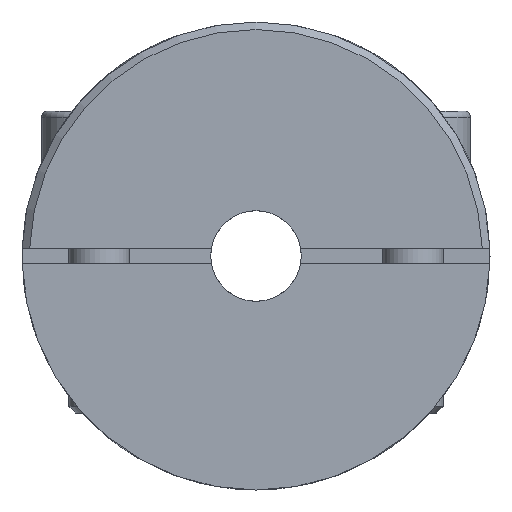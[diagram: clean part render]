
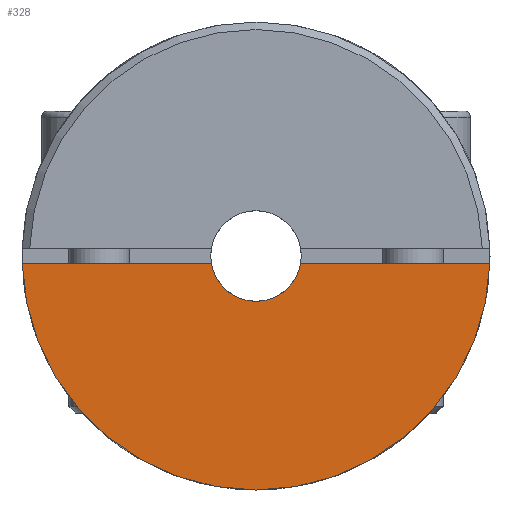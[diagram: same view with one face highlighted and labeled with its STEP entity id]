
A CAD part, left-side view. The second image highlights one B-rep face of the part: STEP entity #328.
In plain terms, the highlighted planar face has unit normal (-1, 0, 0) as drawn and (1, 0, 0) by its records, which use the part's own axes.
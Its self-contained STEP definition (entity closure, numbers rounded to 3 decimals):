
#328 = ADVANCED_FACE( '', ( #713 ), #714, .T. );
#713 = FACE_OUTER_BOUND( '', #1293, .T. );
#714 = PLANE( '', #1294 );
#1293 = EDGE_LOOP( '', ( #1917, #1918, #1919, #1920 ) );
#1294 = AXIS2_PLACEMENT_3D( '', #1921, #1922, #1923 );
#1917 = ORIENTED_EDGE( '', *, *, #2795, .F. );
#1918 = ORIENTED_EDGE( '', *, *, #2796, .T. );
#1919 = ORIENTED_EDGE( '', *, *, #2797, .T. );
#1920 = ORIENTED_EDGE( '', *, *, #2798, .T. );
#1921 = CARTESIAN_POINT( '', ( 7.3, 0., 7.75 ) );
#1922 = DIRECTION( '', ( 1., 0., 0. ) );
#1923 = DIRECTION( '', ( 0., 0., -1. ) );
#2795 = EDGE_CURVE( '', #3177, #3178, #3179, .T. );
#2796 = EDGE_CURVE( '', #3177, #3180, #3181, .T. );
#2797 = EDGE_CURVE( '', #3180, #3182, #3183, .T. );
#2798 = EDGE_CURVE( '', #3182, #3178, #3184, .T. );
#3177 = VERTEX_POINT( '', #3788 );
#3178 = VERTEX_POINT( '', #3789 );
#3179 = CIRCLE( '', #3790, 7.75 );
#3180 = VERTEX_POINT( '', #3791 );
#3181 = LINE( '', #3792, #3793 );
#3182 = VERTEX_POINT( '', #3794 );
#3183 = CIRCLE( '', #3795, 1.5 );
#3184 = LINE( '', #3796, #3797 );
#3788 = CARTESIAN_POINT( '', ( 7.3, 7.746, -0.25 ) );
#3789 = CARTESIAN_POINT( '', ( 7.3, -7.746, -0.25 ) );
#3790 = AXIS2_PLACEMENT_3D( '', #4349, #4350, #4351 );
#3791 = CARTESIAN_POINT( '', ( 7.3, 1.479, -0.25 ) );
#3792 = CARTESIAN_POINT( '', ( 7.3, 0., -0.25 ) );
#3793 = VECTOR( '', #4352, 1000. );
#3794 = CARTESIAN_POINT( '', ( 7.3, -1.479, -0.25 ) );
#3795 = AXIS2_PLACEMENT_3D( '', #4353, #4354, #4355 );
#3796 = CARTESIAN_POINT( '', ( 7.3, 0., -0.25 ) );
#3797 = VECTOR( '', #4356, 1000. );
#4349 = CARTESIAN_POINT( '', ( 7.3, 0., 0. ) );
#4350 = DIRECTION( '', ( -1., 0., 0. ) );
#4351 = DIRECTION( '', ( 0., 0., 1. ) );
#4352 = DIRECTION( '', ( 0., -1., 0. ) );
#4353 = CARTESIAN_POINT( '', ( 7.3, 0., 0. ) );
#4354 = DIRECTION( '', ( -1., 0., 0. ) );
#4355 = DIRECTION( '', ( 0., 0., 1. ) );
#4356 = DIRECTION( '', ( 0., -1., 0. ) );
